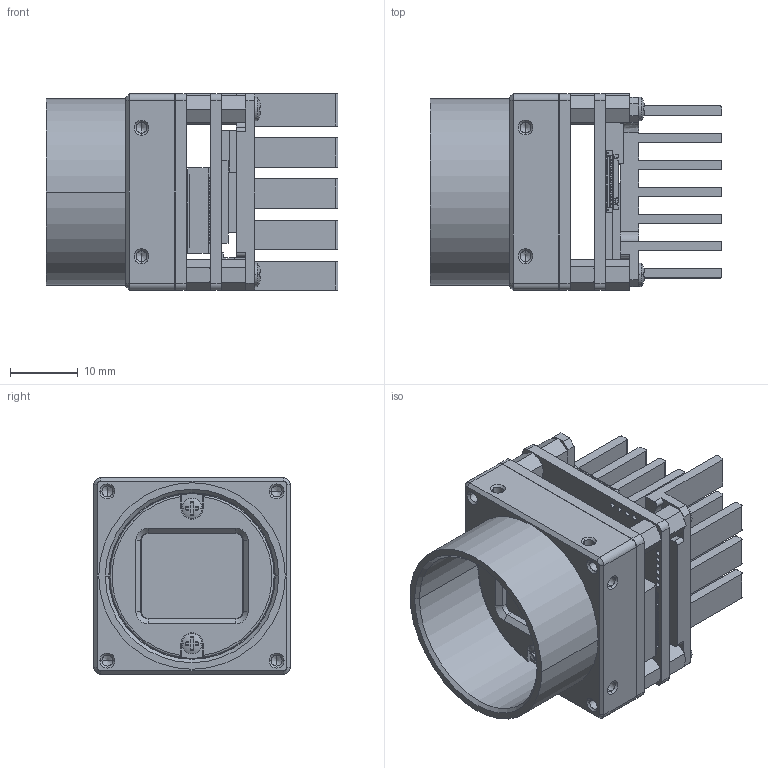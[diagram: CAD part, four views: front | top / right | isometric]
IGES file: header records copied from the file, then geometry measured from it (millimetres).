
Start section:  PTC IGES file: MV-CB050-11UC-C.igs
Global section: file name: MV-CB050-11UC-C.igs; native system: Creo Parametric by PTC Inc.; preprocessor: 2017260; author: wangyijun6; organization: Unknown; date: 20220901.142506; units: millimetre
Bounding box: 43.08 x 29.12 x 29.12 mm (x, y, z)
Volume: 11784.1 mm3; surface area: 16834.4 mm2
Topology: 1 solids, 43 shells, 4461 faces, 13663 edges, 9472 vertices
Faces by surface type: bspline 2887, revolution 1574
